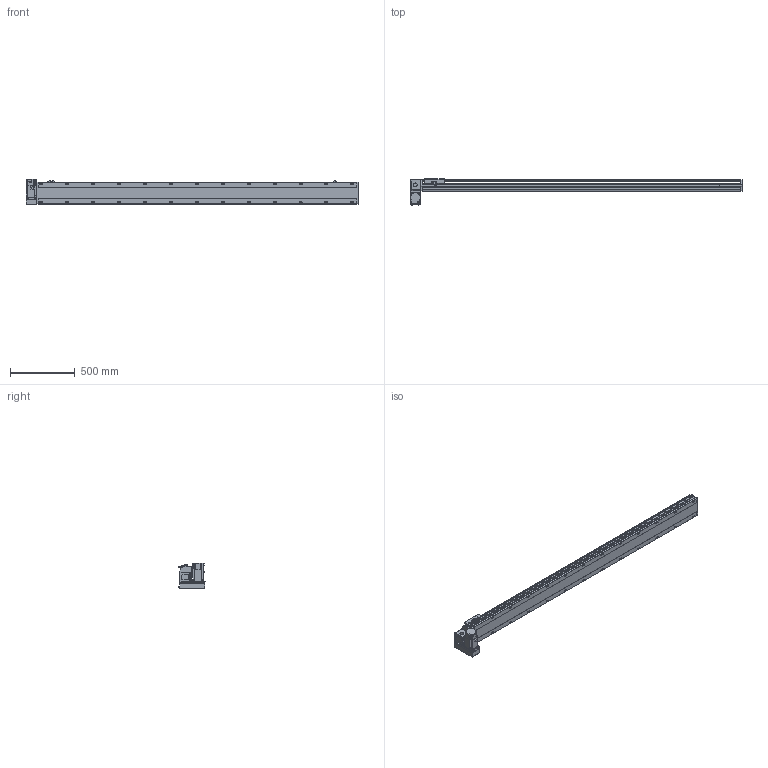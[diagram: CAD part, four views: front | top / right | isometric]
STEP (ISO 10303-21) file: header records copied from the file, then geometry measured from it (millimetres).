
FILE_DESCRIPTION( ( 'STEP AP214' ), '1' );
FILE_NAME( 'x:/temp/worker_4/temp/exporttempdir_2248_355_bkeov/format_0/PBS170-P40-S2200-LD-T75-C1-N(0).stp', '2022-06-07T07:55:08', ( 'License CC BY-ND 4.0' ), ( 'CADENAS' ), ' ', 'PARTsolutions', ' ' );
FILE_SCHEMA( ( 'AUTOMOTIVE_DESIGN { 1 0 10303 214 1 1 1 1 }' ) );
Length unit declared in the file: millimetre
Products named in the file (7): PBS170-P40-S2200-LD-T75-C1-N(0); _PBS170-S2200()_body; _PBS170T-LD_motors; _T75-p1; _PBS170_sliser; _PBS170_plant; _PBS170_sensor
Assembly tree (8 placements, depth 2):
  PBS170-P40-S2200-LD-T75-C1-N(0)
    _PBS170-S2200()_body
    _PBS170T-LD_motors
    _T75-p1
    _PBS170_sliser
    _PBS170_plant
    _PBS170_sensor  x3
Bounding box: 2563 x 201 x 197.3 mm (x, y, z)
Volume: 19543025.4 mm3; surface area: 2470893.9 mm2
Topology: 8 solids, 8 shells, 1162 faces, 3075 edges, 2004 vertices
Faces by surface type: plane 717, cylinder 379, cone 56, sphere 8, torus 2
Full cylindrical faces by diameter (mm): 3.242 x4, 4 x2, 4.4 x4, 4.5 x6, 4.917 x4, 6 x9, 6.647 x34, 7 x2, 7.5 x4, 8 x8, 8.5 x26, 10 x4, 10.5 x26, 11 x2, 30 x2, 40 x1, 70 x1
Entity records: 42950 total; most frequent: CARTESIAN_POINT 7061, DIRECTION 5650, ORIENTED_EDGE 5328, EDGE_CURVE 2664, AXIS2_PLACEMENT_3D 1987, VERTEX_POINT 1850, LINE 1676, VECTOR 1676
